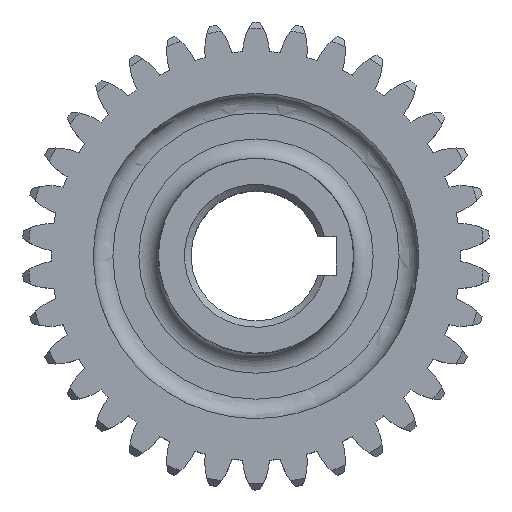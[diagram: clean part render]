
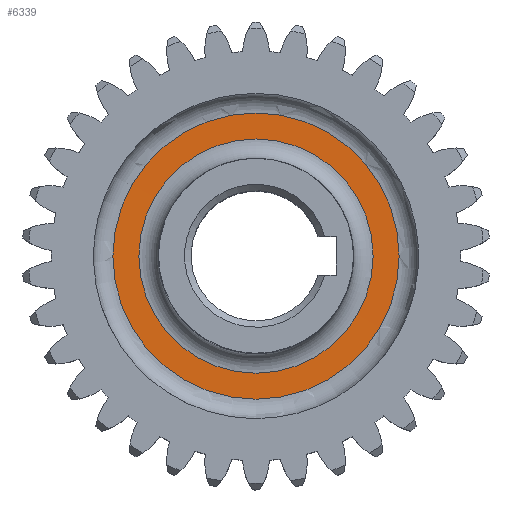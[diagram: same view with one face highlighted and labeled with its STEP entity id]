
A CAD part, top view. The second image highlights one B-rep face of the part: STEP entity #6339.
In plain terms, the highlighted conical face has half-angle 89.933 degrees and reference radius 20.02 mm.
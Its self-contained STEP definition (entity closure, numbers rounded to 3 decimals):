
#483=FACE_BOUND('',#1479,.T.);
#1112=FACE_OUTER_BOUND('',#1478,.T.);
#1478=EDGE_LOOP('',(#4975));
#1479=EDGE_LOOP('',(#4976));
#2057=CIRCLE('',#7062,22.02);
#2058=CIRCLE('',#7064,18.02);
#2686=VERTEX_POINT('',#11098);
#2688=VERTEX_POINT('',#11168);
#3519=EDGE_CURVE('',#2686,#2686,#2057,.T.);
#3521=EDGE_CURVE('',#2688,#2688,#2058,.T.);
#4975=ORIENTED_EDGE('',*,*,#3519,.F.);
#4976=ORIENTED_EDGE('',*,*,#3521,.T.);
#6123=CONICAL_SURFACE('',#7065,20.02,89.933);
#6339=ADVANCED_FACE('',(#1112,#483),#6123,.F.);
#7062=AXIS2_PLACEMENT_3D('',#11099,#8602,#8603);
#7064=AXIS2_PLACEMENT_3D('',#11169,#8606,#8607);
#7065=AXIS2_PLACEMENT_3D('',#11237,#8608,#8609);
#8602=DIRECTION('center_axis',(0.,-0.001,-1.));
#8603=DIRECTION('ref_axis',(1.,0.,0.));
#8606=DIRECTION('center_axis',(0.,-0.001,-1.));
#8607=DIRECTION('ref_axis',(1.,0.,0.));
#8608=DIRECTION('center_axis',(0.,0.001,1.));
#8609=DIRECTION('ref_axis',(0.,1.,-0.001));
#11098=CARTESIAN_POINT('',(0.,22.,7.));
#11099=CARTESIAN_POINT('Origin',(0.,-0.02,7.026));
#11168=CARTESIAN_POINT('',(0.,18.,7.));
#11169=CARTESIAN_POINT('Origin',(0.,-0.02,7.021));
#11237=CARTESIAN_POINT('Origin',(0.,-0.02,7.023));
